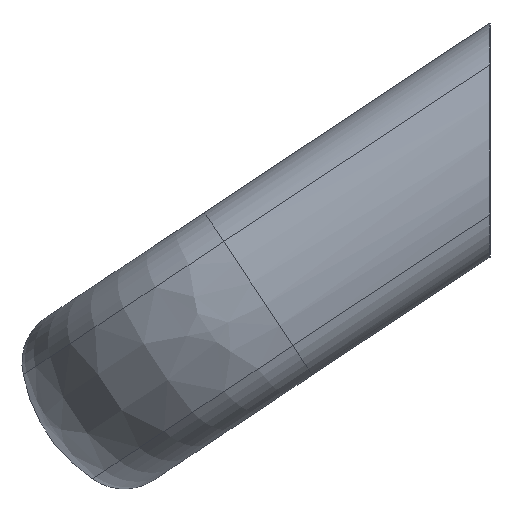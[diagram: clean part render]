
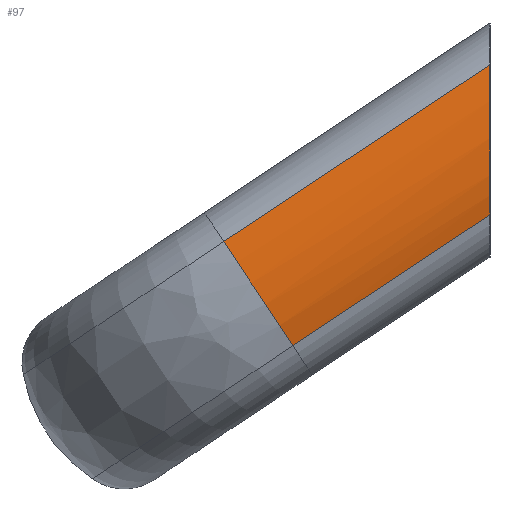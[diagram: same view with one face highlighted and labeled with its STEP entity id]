
A CAD part, left-side view. The second image highlights one B-rep face of the part: STEP entity #97.
In plain terms, the highlighted cylindrical face has radius 16.199 mm (diameter 32.399 mm), a partial arc.
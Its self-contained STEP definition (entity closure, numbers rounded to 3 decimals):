
#97 = ADVANCED_FACE( '', ( #154 ), #155, .T. );
#154 = FACE_OUTER_BOUND( '', #262, .T. );
#155 = CYLINDRICAL_SURFACE( '', #263, 16.199 );
#262 = EDGE_LOOP( '', ( #418, #419, #420, #421 ) );
#263 = AXIS2_PLACEMENT_3D( '', #422, #423, #424 );
#418 = ORIENTED_EDGE( '', *, *, #506, .F. );
#419 = ORIENTED_EDGE( '', *, *, #497, .T. );
#420 = ORIENTED_EDGE( '', *, *, #505, .T. );
#421 = ORIENTED_EDGE( '', *, *, #471, .F. );
#422 = CARTESIAN_POINT( '', ( -54.301, -16.249, 12.278 ) );
#423 = DIRECTION( '', ( 0., -0.833, 0.553 ) );
#424 = DIRECTION( '', ( 0., 0.553, 0.833 ) );
#471 = EDGE_CURVE( '', #534, #529, #536, .T. );
#497 = EDGE_CURVE( '', #575, #573, #576, .F. );
#505 = EDGE_CURVE( '', #573, #529, #585, .T. );
#506 = EDGE_CURVE( '', #575, #534, #586, .T. );
#529 = VERTEX_POINT( '', #612 );
#534 = VERTEX_POINT( '', #617 );
#536 = CIRCLE( '', #619, 16.199 );
#573 = VERTEX_POINT( '', #660 );
#575 = VERTEX_POINT( '', #662 );
#576 = ELLIPSE( '', #663, 19.439, 16.199 );
#585 = LINE( '', #674, #675 );
#586 = LINE( '', #676, #677 );
#612 = CARTESIAN_POINT( '', ( -69.179, 27.294, -8.915 ) );
#617 = CARTESIAN_POINT( '', ( -69.179, 20.209, -19.595 ) );
#619 = AXIS2_PLACEMENT_3D( '', #716, #717, #718 );
#660 = CARTESIAN_POINT( '', ( -69.179, 0., 9.19 ) );
#662 = CARTESIAN_POINT( '', ( -69.179, 0., -6.19 ) );
#663 = AXIS2_PLACEMENT_3D( '', #786, #787, #788 );
#674 = CARTESIAN_POINT( '', ( -69.179, -12.706, 17.618 ) );
#675 = VECTOR( '', #803, 1000. );
#676 = CARTESIAN_POINT( '', ( -69.179, -19.791, 6.938 ) );
#677 = VECTOR( '', #804, 1000. );
#716 = CARTESIAN_POINT( '', ( -54.301, 23.751, -14.255 ) );
#717 = DIRECTION( '', ( 0., 0.833, -0.553 ) );
#718 = DIRECTION( '', ( -0.553, -0.461, -0.694 ) );
#786 = CARTESIAN_POINT( '', ( -54.301, 0., 1.5 ) );
#787 = DIRECTION( '', ( 0., -1., 0. ) );
#788 = DIRECTION( '', ( 0., 0., -1. ) );
#803 = DIRECTION( '', ( 0., 0.833, -0.553 ) );
#804 = DIRECTION( '', ( 0., 0.833, -0.553 ) );
